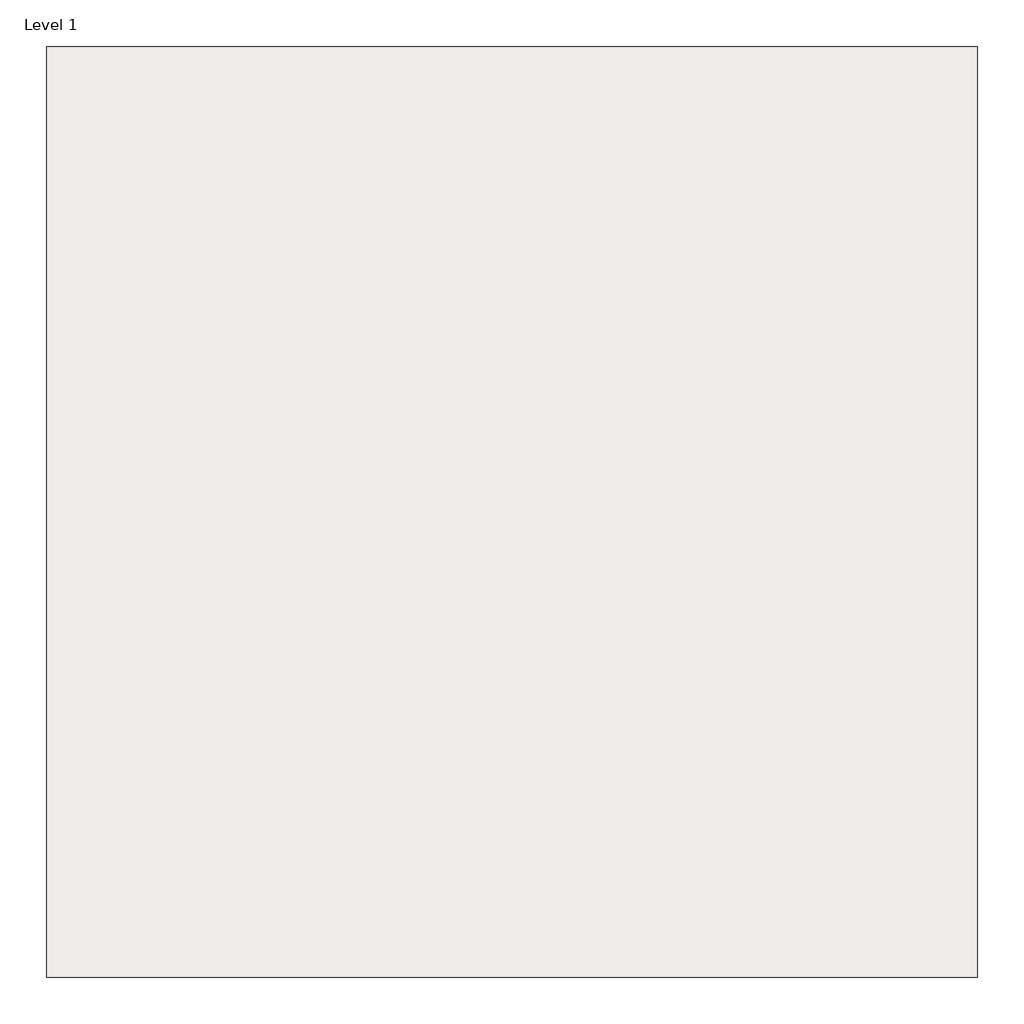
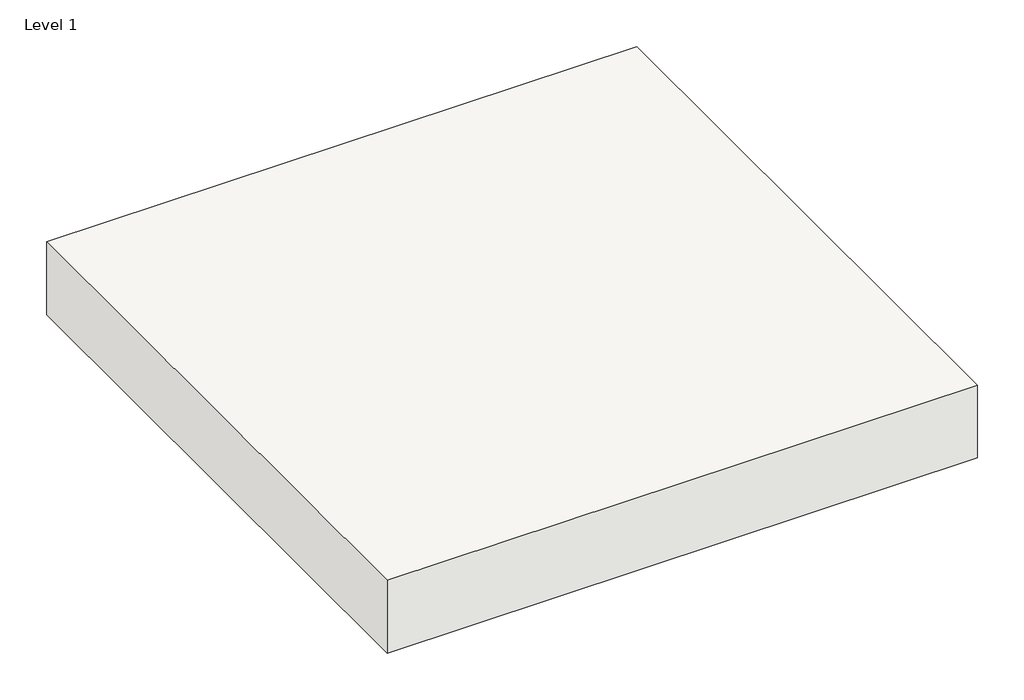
# One storey: 1 roof.
"""IFC4 building model written with IfcOpenShell, lengths in millimetres."""

from ifc_helpers import new_model, si_unit, origin, origin_with_axes, place, context, project, spatial, polyline, outline, extrude, element, save

model = new_model("IFC4")

# Units and contexts
model_context = context("Model", 3, world=origin())
ifc_project = project(units=[si_unit("LENGTHUNIT", "METRE", prefix="MILLI")], contexts=[model_context])

# Site, building, storey
site = spatial("IfcSite", under=ifc_project)
building = spatial("IfcBuilding", under=site)
storey = spatial("IfcBuildingStorey", under=building, Name="Level 1", Elevation=0.0)

# Roof
placement = place(None, origin())
element("IfcRoof", 1, ObjectType="Garland_StressPly_FlexSA", at=placement, inside=storey, context=model_context, shape_type="SweptSolid", body=[
    extrude(outline(polyline([(1764.0997831, 3460.4121475), (2764.0997831, 3460.4121475), (2764.0997831, 2460.4121475), (1764.0997831, 2460.4121475), (1764.0997831, 3460.4121475)])), origin_with_axes(), (0.0, 0.0, 1.0), 130.2),
])

save(model, "model.ifc")
